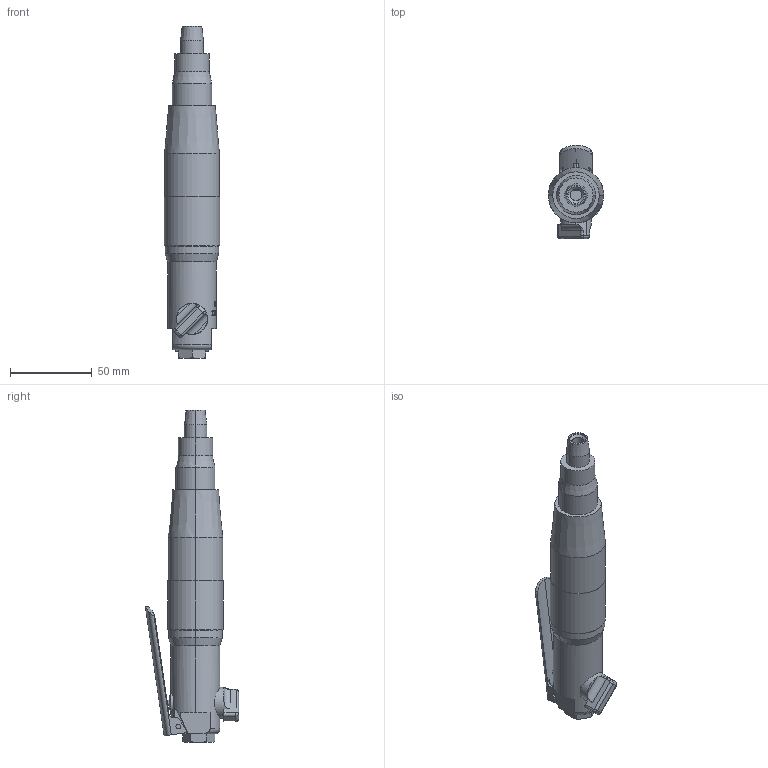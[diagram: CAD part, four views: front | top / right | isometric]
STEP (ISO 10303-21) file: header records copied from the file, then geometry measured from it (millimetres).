
FILE_DESCRIPTION (( 'STEP AP203' ), '1' );
FILE_NAME ('US-3.5B.STEP', '2006-05-24T07:48:52', ( '' ), ( '' ), 'SwSTEP 2.0', 'SolidWorks 2003240', '' );
FILE_SCHEMA (( 'CONFIG_CONTROL_DESIGN' ));
Length unit declared in the file: millimetre
Products named in the file (10): 4100251_US-3.5B_蹬怮椔; 9702130_US-3.5B_蹬怮椔; 5001071_US-3.5B_蹬怮椔; US-3.5B; 4143191_US-3.5B_蹬怮椔; 4140571_US-3.5B_蹬怮椔; 9174000_US-3.5B_蹬怮椔; 4107821_US-3.5B_蹬怮椔; 9810020_US-3.5B_蹬怮椔; 4102121_US-3.5B_蹬怮椔
Assembly tree (9 placements, depth 2):
  US-3.5B
    9810020_US-3.5B_蹬怮椔
    9702130_US-3.5B_蹬怮椔
    5001071_US-3.5B_蹬怮椔
    9174000_US-3.5B_蹬怮椔
    4100251_US-3.5B_蹬怮椔
    4143191_US-3.5B_蹬怮椔
    4107821_US-3.5B_蹬怮椔
    4102121_US-3.5B_蹬怮椔
    4140571_US-3.5B_蹬怮椔
Bounding box: 34 x 57.22 x 203.7 mm (x, y, z)
Volume: 133580.3 mm3; surface area: 35118 mm2
Topology: 9 solids, 9 shells, 416 faces, 1082 edges, 710 vertices
Faces by surface type: cylinder 159, plane 136, bspline 86, cone 22, torus 9, sphere 4
Entity records: 19803 total; most frequent: CARTESIAN_POINT 9331, ORIENTED_EDGE 2154, DIRECTION 1658, EDGE_CURVE 1077, VERTEX_POINT 707, AXIS2_PLACEMENT_3D 615, EDGE_LOOP 454, VECTOR 428
